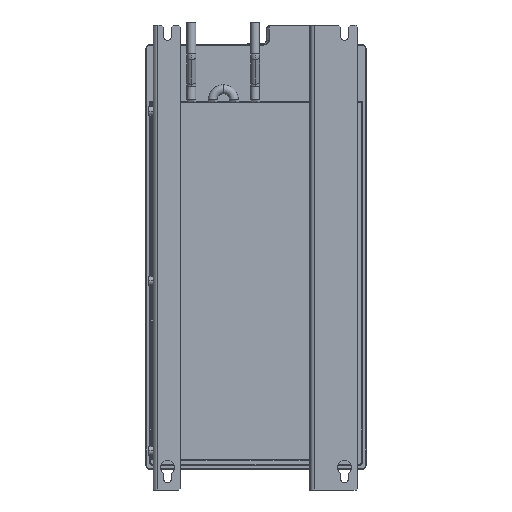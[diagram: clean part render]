
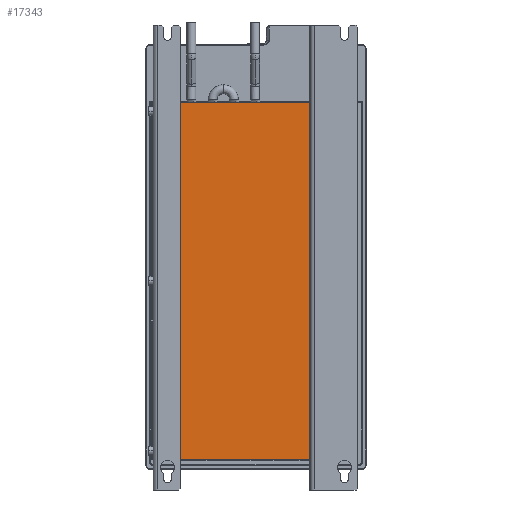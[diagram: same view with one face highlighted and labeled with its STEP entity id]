
A CAD part, front view. The second image highlights one B-rep face of the part: STEP entity #17343.
In plain terms, the highlighted planar face has unit normal (0, -1, 0).
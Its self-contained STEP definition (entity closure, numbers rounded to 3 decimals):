
#332 = AXIS2_PLACEMENT_3D ( 'NONE', #574, #34419, #68283 ) ;
#574 = CARTESIAN_POINT ( 'NONE',  ( 89.5, 1., 590.321 ) ) ;
#3448 = EDGE_CURVE ( 'NONE', #96057, #99433, #4661, .T. ) ;
#3581 = CARTESIAN_POINT ( 'NONE',  ( 87.5, 1., 405.9 ) ) ;
#4661 = LINE ( 'NONE', #3581, #27539 ) ;
#6276 = ORIENTED_EDGE ( 'NONE', *, *, #3448, .F. ) ;
#9526 = VECTOR ( 'NONE', #93115, 1000. ) ;
#13090 = CARTESIAN_POINT ( 'NONE',  ( 87.5, 1., 403. ) ) ;
#14453 = ORIENTED_EDGE ( 'NONE', *, *, #79304, .F. ) ;
#17343 = ADVANCED_FACE ( 'NONE', ( #18355 ), #18915, .T. ) ;
#18355 = FACE_OUTER_BOUND ( 'NONE', #86301, .T. ) ;
#18915 = PLANE ( 'NONE',  #332 ) ;
#26151 = DIRECTION ( 'NONE',  ( 1., 0., 0. ) ) ;
#27539 = VECTOR ( 'NONE', #71282, 1000. ) ;
#28572 = ORIENTED_EDGE ( 'NONE', *, *, #106364, .F. ) ;
#34419 = DIRECTION ( 'NONE',  ( 0., -1., 0. ) ) ;
#36730 = VERTEX_POINT ( 'NONE', #109634 ) ;
#41811 = DIRECTION ( 'NONE',  ( -1., 0., 0. ) ) ;
#50819 = LINE ( 'NONE', #92568, #9526 ) ;
#62340 = VECTOR ( 'NONE', #26151, 1000. ) ;
#65731 = LINE ( 'NONE', #75164, #104945 ) ;
#68283 = DIRECTION ( 'NONE',  ( 0., 0., -1. ) ) ;
#69789 = CARTESIAN_POINT ( 'NONE',  ( -87.5, 1., 0. ) ) ;
#71282 = DIRECTION ( 'NONE',  ( 0., 0., -1. ) ) ;
#72471 = CARTESIAN_POINT ( 'NONE',  ( 87.5, 1., 0. ) ) ;
#75164 = CARTESIAN_POINT ( 'NONE',  ( 89.5, 1., 0. ) ) ;
#77756 = LINE ( 'NONE', #78867, #62340 ) ;
#78867 = CARTESIAN_POINT ( 'NONE',  ( 89.5, 1., 403. ) ) ;
#79304 = EDGE_CURVE ( 'NONE', #99433, #89646, #65731, .T. ) ;
#86301 = EDGE_LOOP ( 'NONE', ( #28572, #105516, #14453, #6276 ) ) ;
#89646 = VERTEX_POINT ( 'NONE', #69789 ) ;
#92568 = CARTESIAN_POINT ( 'NONE',  ( -87.5, 1., 405.9 ) ) ;
#93115 = DIRECTION ( 'NONE',  ( 0., 0., -1. ) ) ;
#96057 = VERTEX_POINT ( 'NONE', #13090 ) ;
#96651 = EDGE_CURVE ( 'NONE', #36730, #89646, #50819, .T. ) ;
#99433 = VERTEX_POINT ( 'NONE', #72471 ) ;
#104945 = VECTOR ( 'NONE', #41811, 1000. ) ;
#105516 = ORIENTED_EDGE ( 'NONE', *, *, #96651, .T. ) ;
#106364 = EDGE_CURVE ( 'NONE', #36730, #96057, #77756, .T. ) ;
#109634 = CARTESIAN_POINT ( 'NONE',  ( -87.5, 1., 403. ) ) ;
